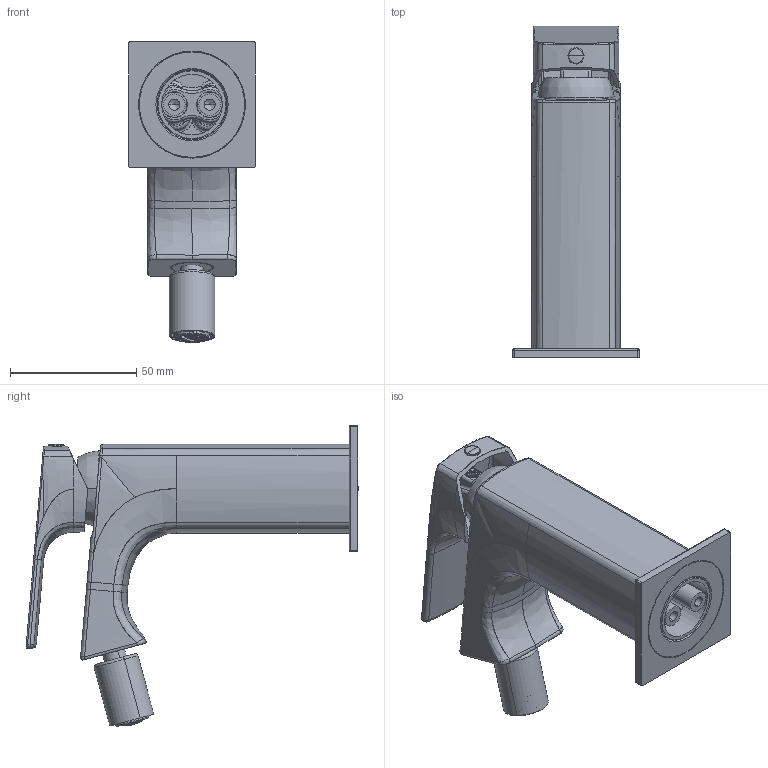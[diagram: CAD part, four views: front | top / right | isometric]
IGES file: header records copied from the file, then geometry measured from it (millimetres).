
Start section:  PTC IGES file: 75080_sw0001.igs
Global section: file name: 75080_sw0001.igs; native system: Creo Parametric by PTC Inc.; preprocessor: 2022014; author: volponeff; organization: Unknown; date: 20241007.093617; units: millimetre
Bounding box: 50 x 131.54 x 119.21 mm (x, y, z)
Surface area: 71005.9 mm2 (no closed solid volume)
Topology: 0 solids, 0 shells, 3787 faces, 21281 edges, 21198 vertices
Faces by surface type: bspline 2378, revolution 1406, extrusion 3
